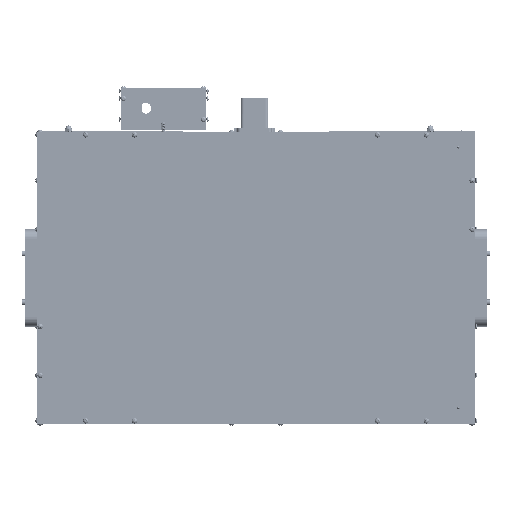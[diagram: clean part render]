
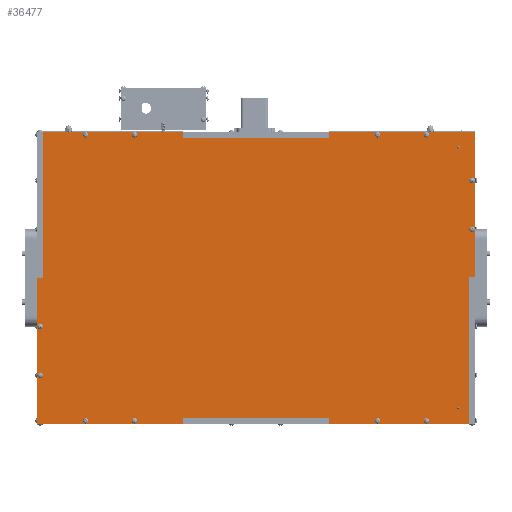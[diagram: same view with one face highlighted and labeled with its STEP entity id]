
A CAD part, front view. The second image highlights one B-rep face of the part: STEP entity #36477.
In plain terms, the highlighted planar face has unit normal (0, -1, 0).
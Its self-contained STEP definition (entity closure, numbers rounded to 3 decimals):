
#2883=FACE_BOUND('',#8025,.T.);
#2884=FACE_BOUND('',#8026,.T.);
#2885=FACE_BOUND('',#8027,.T.);
#2886=FACE_BOUND('',#8028,.T.);
#2887=FACE_BOUND('',#8029,.T.);
#2888=FACE_BOUND('',#8030,.T.);
#2889=FACE_BOUND('',#8031,.T.);
#2890=FACE_BOUND('',#8032,.T.);
#2891=FACE_BOUND('',#8033,.T.);
#2892=FACE_BOUND('',#8034,.T.);
#2893=FACE_BOUND('',#8035,.T.);
#2894=FACE_BOUND('',#8036,.T.);
#2895=FACE_BOUND('',#8037,.T.);
#2896=FACE_BOUND('',#8038,.T.);
#3575=CIRCLE('',#39529,1.25);
#3577=CIRCLE('',#39532,1.25);
#3579=CIRCLE('',#39535,1.25);
#3581=CIRCLE('',#39538,1.25);
#3583=CIRCLE('',#39541,1.25);
#3585=CIRCLE('',#39544,1.25);
#3587=CIRCLE('',#39547,1.25);
#3589=CIRCLE('',#39550,1.25);
#3591=CIRCLE('',#39553,1.25);
#3593=CIRCLE('',#39556,1.25);
#3595=CIRCLE('',#39559,1.25);
#3597=CIRCLE('',#39562,1.25);
#3599=CIRCLE('',#39565,1.25);
#3601=CIRCLE('',#39568,1.25);
#5946=FACE_OUTER_BOUND('',#8024,.T.);
#8024=EDGE_LOOP('',(#27313,#27314,#27315,#27316,#27317,#27318,#27319,#27320,
#27321,#27322,#27323,#27324,#27325,#27326,#27327,#27328));
#8025=EDGE_LOOP('',(#27329));
#8026=EDGE_LOOP('',(#27330));
#8027=EDGE_LOOP('',(#27331));
#8028=EDGE_LOOP('',(#27332));
#8029=EDGE_LOOP('',(#27333));
#8030=EDGE_LOOP('',(#27334));
#8031=EDGE_LOOP('',(#27335));
#8032=EDGE_LOOP('',(#27336));
#8033=EDGE_LOOP('',(#27337));
#8034=EDGE_LOOP('',(#27338));
#8035=EDGE_LOOP('',(#27339));
#8036=EDGE_LOOP('',(#27340));
#8037=EDGE_LOOP('',(#27341));
#8038=EDGE_LOOP('',(#27342));
#10469=LINE('',#73034,#13077);
#10472=LINE('',#73040,#13080);
#10476=LINE('',#73047,#13084);
#10491=LINE('',#73078,#13099);
#10494=LINE('',#73083,#13102);
#10495=LINE('',#73086,#13103);
#10497=LINE('',#73090,#13105);
#10500=LINE('',#73096,#13108);
#10502=LINE('',#73100,#13110);
#10504=LINE('',#73104,#13112);
#10505=LINE('',#73106,#13113);
#10506=LINE('',#73108,#13114);
#10507=LINE('',#73110,#13115);
#10508=LINE('',#73111,#13116);
#10509=LINE('',#73112,#13117);
#10510=LINE('',#73113,#13118);
#13077=VECTOR('',#44788,10.);
#13080=VECTOR('',#44793,10.);
#13084=VECTOR('',#44799,10.);
#13099=VECTOR('',#44818,10.);
#13102=VECTOR('',#44823,10.);
#13103=VECTOR('',#44826,10.);
#13105=VECTOR('',#44830,10.);
#13108=VECTOR('',#44835,10.);
#13110=VECTOR('',#44839,10.);
#13112=VECTOR('',#44843,10.);
#13113=VECTOR('',#44844,10.);
#13114=VECTOR('',#44845,10.);
#13115=VECTOR('',#44846,10.);
#13116=VECTOR('',#44847,10.);
#13117=VECTOR('',#44848,10.);
#13118=VECTOR('',#44849,10.);
#16015=VERTEX_POINT('',#72944);
#16017=VERTEX_POINT('',#72950);
#16019=VERTEX_POINT('',#72956);
#16021=VERTEX_POINT('',#72962);
#16023=VERTEX_POINT('',#72968);
#16025=VERTEX_POINT('',#72974);
#16027=VERTEX_POINT('',#72980);
#16029=VERTEX_POINT('',#72986);
#16031=VERTEX_POINT('',#72992);
#16033=VERTEX_POINT('',#72998);
#16035=VERTEX_POINT('',#73004);
#16037=VERTEX_POINT('',#73010);
#16039=VERTEX_POINT('',#73016);
#16041=VERTEX_POINT('',#73022);
#16045=VERTEX_POINT('',#73031);
#16046=VERTEX_POINT('',#73033);
#16047=VERTEX_POINT('',#73037);
#16050=VERTEX_POINT('',#73045);
#16063=VERTEX_POINT('',#73075);
#16064=VERTEX_POINT('',#73077);
#16065=VERTEX_POINT('',#73081);
#16066=VERTEX_POINT('',#73085);
#16067=VERTEX_POINT('',#73089);
#16068=VERTEX_POINT('',#73093);
#16069=VERTEX_POINT('',#73095);
#16070=VERTEX_POINT('',#73099);
#16071=VERTEX_POINT('',#73103);
#16072=VERTEX_POINT('',#73105);
#16073=VERTEX_POINT('',#73107);
#16074=VERTEX_POINT('',#73109);
#20163=EDGE_CURVE('',#16015,#16015,#3575,.T.);
#20166=EDGE_CURVE('',#16017,#16017,#3577,.T.);
#20169=EDGE_CURVE('',#16019,#16019,#3579,.T.);
#20172=EDGE_CURVE('',#16021,#16021,#3581,.T.);
#20175=EDGE_CURVE('',#16023,#16023,#3583,.T.);
#20178=EDGE_CURVE('',#16025,#16025,#3585,.T.);
#20181=EDGE_CURVE('',#16027,#16027,#3587,.T.);
#20184=EDGE_CURVE('',#16029,#16029,#3589,.T.);
#20187=EDGE_CURVE('',#16031,#16031,#3591,.T.);
#20190=EDGE_CURVE('',#16033,#16033,#3593,.T.);
#20193=EDGE_CURVE('',#16035,#16035,#3595,.T.);
#20196=EDGE_CURVE('',#16037,#16037,#3597,.T.);
#20199=EDGE_CURVE('',#16039,#16039,#3599,.T.);
#20202=EDGE_CURVE('',#16041,#16041,#3601,.T.);
#20207=EDGE_CURVE('',#16046,#16045,#10469,.T.);
#20210=EDGE_CURVE('',#16045,#16047,#10472,.T.);
#20214=EDGE_CURVE('',#16050,#16047,#10476,.T.);
#20229=EDGE_CURVE('',#16064,#16063,#10491,.T.);
#20232=EDGE_CURVE('',#16063,#16065,#10494,.T.);
#20233=EDGE_CURVE('',#16066,#16064,#10495,.T.);
#20235=EDGE_CURVE('',#16066,#16067,#10497,.T.);
#20238=EDGE_CURVE('',#16069,#16068,#10500,.T.);
#20240=EDGE_CURVE('',#16070,#16069,#10502,.T.);
#20242=EDGE_CURVE('',#16071,#16050,#10504,.T.);
#20243=EDGE_CURVE('',#16071,#16072,#10505,.T.);
#20244=EDGE_CURVE('',#16072,#16073,#10506,.T.);
#20245=EDGE_CURVE('',#16073,#16074,#10507,.T.);
#20246=EDGE_CURVE('',#16070,#16074,#10508,.T.);
#20247=EDGE_CURVE('',#16067,#16068,#10509,.T.);
#20248=EDGE_CURVE('',#16046,#16065,#10510,.T.);
#27313=ORIENTED_EDGE('',*,*,#20210,.T.);
#27314=ORIENTED_EDGE('',*,*,#20214,.F.);
#27315=ORIENTED_EDGE('',*,*,#20242,.F.);
#27316=ORIENTED_EDGE('',*,*,#20243,.T.);
#27317=ORIENTED_EDGE('',*,*,#20244,.T.);
#27318=ORIENTED_EDGE('',*,*,#20245,.T.);
#27319=ORIENTED_EDGE('',*,*,#20246,.F.);
#27320=ORIENTED_EDGE('',*,*,#20240,.T.);
#27321=ORIENTED_EDGE('',*,*,#20238,.T.);
#27322=ORIENTED_EDGE('',*,*,#20247,.F.);
#27323=ORIENTED_EDGE('',*,*,#20235,.F.);
#27324=ORIENTED_EDGE('',*,*,#20233,.T.);
#27325=ORIENTED_EDGE('',*,*,#20229,.T.);
#27326=ORIENTED_EDGE('',*,*,#20232,.T.);
#27327=ORIENTED_EDGE('',*,*,#20248,.F.);
#27328=ORIENTED_EDGE('',*,*,#20207,.T.);
#27329=ORIENTED_EDGE('',*,*,#20163,.T.);
#27330=ORIENTED_EDGE('',*,*,#20166,.T.);
#27331=ORIENTED_EDGE('',*,*,#20169,.T.);
#27332=ORIENTED_EDGE('',*,*,#20172,.T.);
#27333=ORIENTED_EDGE('',*,*,#20175,.T.);
#27334=ORIENTED_EDGE('',*,*,#20178,.T.);
#27335=ORIENTED_EDGE('',*,*,#20181,.T.);
#27336=ORIENTED_EDGE('',*,*,#20184,.T.);
#27337=ORIENTED_EDGE('',*,*,#20187,.T.);
#27338=ORIENTED_EDGE('',*,*,#20190,.T.);
#27339=ORIENTED_EDGE('',*,*,#20193,.T.);
#27340=ORIENTED_EDGE('',*,*,#20196,.T.);
#27341=ORIENTED_EDGE('',*,*,#20199,.T.);
#27342=ORIENTED_EDGE('',*,*,#20202,.T.);
#35370=PLANE('',#39580);
#36477=ADVANCED_FACE('',(#5946,#2883,#2884,#2885,#2886,#2887,#2888,#2889,
#2890,#2891,#2892,#2893,#2894,#2895,#2896),#35370,.F.);
#39529=AXIS2_PLACEMENT_3D('',#72945,#44688,#44689);
#39532=AXIS2_PLACEMENT_3D('',#72951,#44695,#44696);
#39535=AXIS2_PLACEMENT_3D('',#72957,#44702,#44703);
#39538=AXIS2_PLACEMENT_3D('',#72963,#44709,#44710);
#39541=AXIS2_PLACEMENT_3D('',#72969,#44716,#44717);
#39544=AXIS2_PLACEMENT_3D('',#72975,#44723,#44724);
#39547=AXIS2_PLACEMENT_3D('',#72981,#44730,#44731);
#39550=AXIS2_PLACEMENT_3D('',#72987,#44737,#44738);
#39553=AXIS2_PLACEMENT_3D('',#72993,#44744,#44745);
#39556=AXIS2_PLACEMENT_3D('',#72999,#44751,#44752);
#39559=AXIS2_PLACEMENT_3D('',#73005,#44758,#44759);
#39562=AXIS2_PLACEMENT_3D('',#73011,#44765,#44766);
#39565=AXIS2_PLACEMENT_3D('',#73017,#44772,#44773);
#39568=AXIS2_PLACEMENT_3D('',#73023,#44779,#44780);
#39580=AXIS2_PLACEMENT_3D('',#73102,#44841,#44842);
#44688=DIRECTION('center_axis',(0.,1.,0.));
#44689=DIRECTION('ref_axis',(1.,0.,0.));
#44695=DIRECTION('center_axis',(0.,1.,0.));
#44696=DIRECTION('ref_axis',(1.,0.,0.));
#44702=DIRECTION('center_axis',(0.,1.,0.));
#44703=DIRECTION('ref_axis',(1.,0.,0.));
#44709=DIRECTION('center_axis',(0.,1.,0.));
#44710=DIRECTION('ref_axis',(1.,0.,0.));
#44716=DIRECTION('center_axis',(0.,1.,0.));
#44717=DIRECTION('ref_axis',(1.,0.,0.));
#44723=DIRECTION('center_axis',(0.,1.,0.));
#44724=DIRECTION('ref_axis',(1.,0.,0.));
#44730=DIRECTION('center_axis',(0.,1.,0.));
#44731=DIRECTION('ref_axis',(1.,0.,0.));
#44737=DIRECTION('center_axis',(0.,1.,0.));
#44738=DIRECTION('ref_axis',(1.,0.,0.));
#44744=DIRECTION('center_axis',(0.,1.,0.));
#44745=DIRECTION('ref_axis',(1.,0.,0.));
#44751=DIRECTION('center_axis',(0.,1.,0.));
#44752=DIRECTION('ref_axis',(1.,0.,0.));
#44758=DIRECTION('center_axis',(0.,1.,0.));
#44759=DIRECTION('ref_axis',(1.,0.,0.));
#44765=DIRECTION('center_axis',(0.,1.,0.));
#44766=DIRECTION('ref_axis',(1.,0.,0.));
#44772=DIRECTION('center_axis',(0.,1.,0.));
#44773=DIRECTION('ref_axis',(1.,0.,0.));
#44779=DIRECTION('center_axis',(0.,1.,0.));
#44780=DIRECTION('ref_axis',(1.,0.,0.));
#44788=DIRECTION('',(0.,0.,-1.));
#44793=DIRECTION('',(-1.,0.,0.));
#44799=DIRECTION('',(0.,0.,1.));
#44818=DIRECTION('',(-1.,0.,0.));
#44823=DIRECTION('',(0.,0.,1.));
#44826=DIRECTION('',(0.,0.,-1.));
#44830=DIRECTION('',(1.,0.,0.));
#44835=DIRECTION('',(1.,0.,0.));
#44839=DIRECTION('',(0.,0.,1.));
#44841=DIRECTION('center_axis',(0.,1.,0.));
#44842=DIRECTION('ref_axis',(1.,0.,0.));
#44843=DIRECTION('',(-1.,0.,0.));
#44844=DIRECTION('',(0.,0.,1.));
#44845=DIRECTION('',(1.,0.,0.));
#44846=DIRECTION('',(0.,0.,-1.));
#44847=DIRECTION('',(-1.,0.,0.));
#44848=DIRECTION('',(0.,0.,-1.));
#44849=DIRECTION('',(1.,0.,0.));
#72944=CARTESIAN_POINT('',(206.75,-225.,-134.));
#72945=CARTESIAN_POINT('Origin',(208.,-225.,-134.));
#72950=CARTESIAN_POINT('',(206.75,-225.,134.));
#72951=CARTESIAN_POINT('Origin',(208.,-225.,134.));
#72956=CARTESIAN_POINT('',(123.75,-225.,-147.));
#72957=CARTESIAN_POINT('Origin',(125.,-225.,-147.));
#72962=CARTESIAN_POINT('',(-176.25,-225.,147.));
#72963=CARTESIAN_POINT('Origin',(-175.,-225.,147.));
#72968=CARTESIAN_POINT('',(173.75,-225.,147.));
#72969=CARTESIAN_POINT('Origin',(175.,-225.,147.));
#72974=CARTESIAN_POINT('',(-126.25,-225.,-147.));
#72975=CARTESIAN_POINT('Origin',(-125.,-225.,-147.));
#72980=CARTESIAN_POINT('',(173.75,-225.,-147.));
#72981=CARTESIAN_POINT('Origin',(175.,-225.,-147.));
#72986=CARTESIAN_POINT('',(-126.25,-225.,147.));
#72987=CARTESIAN_POINT('Origin',(-125.,-225.,147.));
#72992=CARTESIAN_POINT('',(123.75,-225.,147.));
#72993=CARTESIAN_POINT('Origin',(125.,-225.,147.));
#72998=CARTESIAN_POINT('',(-176.25,-225.,-147.));
#72999=CARTESIAN_POINT('Origin',(-175.,-225.,-147.));
#73004=CARTESIAN_POINT('',(220.75,-225.,100.));
#73005=CARTESIAN_POINT('Origin',(222.,-225.,100.));
#73010=CARTESIAN_POINT('',(-223.25,-225.,-100.));
#73011=CARTESIAN_POINT('Origin',(-222.,-225.,-100.));
#73016=CARTESIAN_POINT('',(220.75,-225.,50.));
#73017=CARTESIAN_POINT('Origin',(222.,-225.,50.));
#73022=CARTESIAN_POINT('',(-223.25,-225.,-50.));
#73023=CARTESIAN_POINT('Origin',(-222.,-225.,-50.));
#73031=CARTESIAN_POINT('',(-219.,-225.,0.));
#73033=CARTESIAN_POINT('',(-219.,-225.,150.));
#73034=CARTESIAN_POINT('',(-219.,-225.,0.));
#73037=CARTESIAN_POINT('',(-225.,-225.,0.));
#73040=CARTESIAN_POINT('',(-112.5,-225.,0.));
#73045=CARTESIAN_POINT('',(-225.,-225.,-150.));
#73047=CARTESIAN_POINT('',(-225.,-225.,-150.));
#73075=CARTESIAN_POINT('',(-75.,-225.,144.));
#73077=CARTESIAN_POINT('',(75.,-225.,144.));
#73078=CARTESIAN_POINT('',(0.,-225.,144.));
#73081=CARTESIAN_POINT('',(-75.,-225.,150.));
#73083=CARTESIAN_POINT('',(-75.,-225.,72.));
#73085=CARTESIAN_POINT('',(75.,-225.,150.));
#73086=CARTESIAN_POINT('',(75.,-225.,72.));
#73089=CARTESIAN_POINT('',(225.,-225.,150.));
#73090=CARTESIAN_POINT('',(-225.,-225.,150.));
#73093=CARTESIAN_POINT('',(225.,-225.,0.));
#73095=CARTESIAN_POINT('',(219.,-225.,0.));
#73096=CARTESIAN_POINT('',(112.5,-225.,0.));
#73099=CARTESIAN_POINT('',(219.,-225.,-150.));
#73100=CARTESIAN_POINT('',(219.,-225.,0.));
#73102=CARTESIAN_POINT('Origin',(0.,-225.,0.));
#73103=CARTESIAN_POINT('',(-75.,-225.,-150.));
#73104=CARTESIAN_POINT('',(225.,-225.,-150.));
#73105=CARTESIAN_POINT('',(-75.,-225.,-144.));
#73106=CARTESIAN_POINT('',(-75.,-225.,-75.));
#73107=CARTESIAN_POINT('',(75.,-225.,-144.));
#73108=CARTESIAN_POINT('',(0.,-225.,-144.));
#73109=CARTESIAN_POINT('',(75.,-225.,-150.));
#73110=CARTESIAN_POINT('',(75.,-225.,-75.));
#73111=CARTESIAN_POINT('',(225.,-225.,-150.));
#73112=CARTESIAN_POINT('',(225.,-225.,150.));
#73113=CARTESIAN_POINT('',(-225.,-225.,150.));
